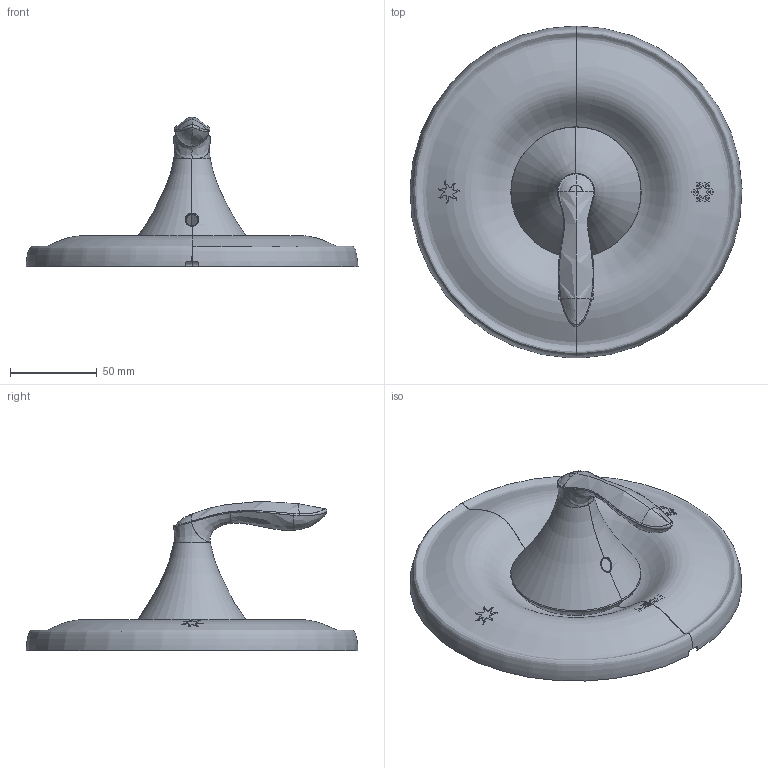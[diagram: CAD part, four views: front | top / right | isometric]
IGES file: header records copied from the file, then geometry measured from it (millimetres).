
Start section:  PTC IGES file: sku_t2131.igs
Global section: file name: sku_t2131.igs; native system: Pro/ENGINEER by Parametric Technology Corporation; preprocessor: 2006460; author: 9dutterb; organization: Unknown; date: 20071206.123742; units: inch
Bounding box: 191.1 x 191.07 x 86.06 mm (x, y, z)
Surface area: 84735.1 mm2 (no closed solid volume)
Topology: 0 solids, 0 shells, 55 faces, 380 edges, 380 vertices
Faces by surface type: bspline 35, revolution 20
